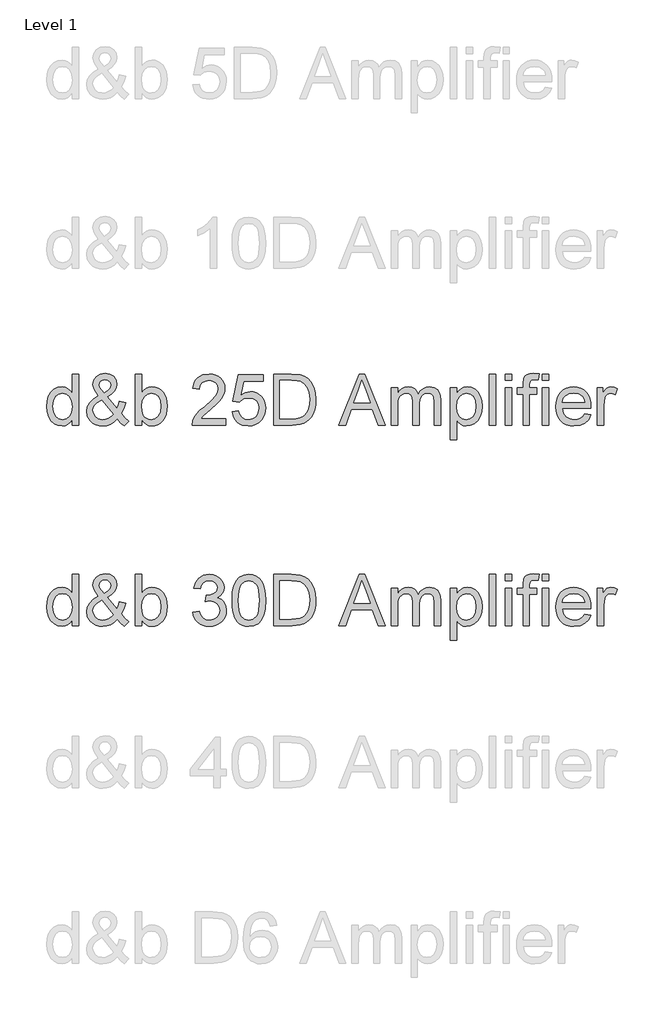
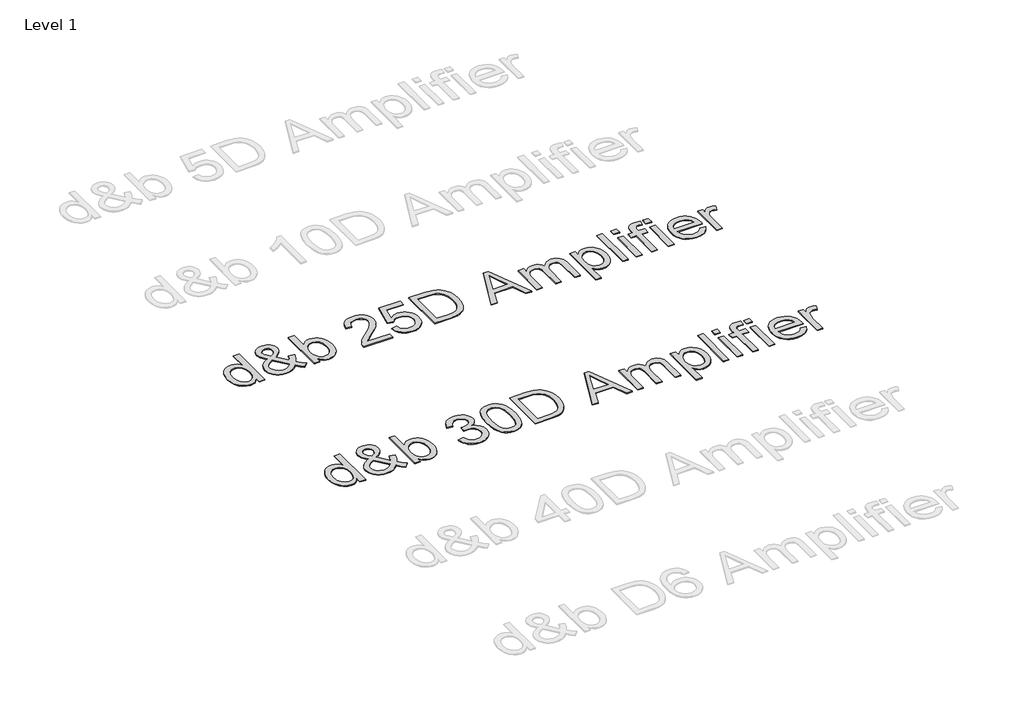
# One storey, part 9 of 14: 2 proxies.
"""IFC4 building model written with IfcOpenShell, lengths in millimetres."""

import ifcopenshell
import ifcopenshell.guid

model = None  # the IFC model being written
_history = None  # IfcOwnerHistory: only IFC2X3 demands one
_inside = {}  # id of a spatial element -> (the spatial element, [elements in it])
_under = {}  # id of a project, library or spatial element -> (it, [spatial elements below it])
_declared = {}  # id of a project -> (the project, [libraries it declares])
_typed = {}  # id of a type object -> (the type object, [elements of that type])
_made_of = {}  # id of a material, layer set ... -> (it, [elements and type objects made of it])


def new_model(schema):
    """Start an empty IFC model of exactly this schema.

    Asked for "IFC4X3", IfcOpenShell would pick the latest addendum, in which some entities
    have other attributes; the version numbers below select the first issue.
    IFC2X3 requires an IfcOwnerHistory on every rooted entity: one is made here for all.
    """
    global model, _history
    if schema == "IFC4X3":
        model = ifcopenshell.file(schema_version=(4, 3, 0, 0))
    else:
        model = ifcopenshell.file(schema=schema)
    _inside.clear()
    _under.clear()
    _declared.clear()
    _typed.clear()
    _made_of.clear()
    _history = None
    if model.schema == "IFC2X3":
        org = make("IfcOrganization", Name="unknown")
        user = make(
            "IfcPersonAndOrganization",
            ThePerson=make("IfcPerson", FamilyName="unknown"),
            TheOrganization=org,
        )
        app = make(
            "IfcApplication",
            ApplicationDeveloper=org,
            Version="unknown",
            ApplicationFullName="unknown",
            ApplicationIdentifier="unknown",
        )
        _history = make(
            "IfcOwnerHistory",
            OwningUser=user,
            OwningApplication=app,
            ChangeAction="ADDED",
            CreationDate=0,
        )
    return model


def make(cls, **values):
    """One entity of the class cls with the attributes given. An attribute that is None is left unset."""
    return model.create_entity(
        cls, **{name: value for name, value in values.items() if value is not None}
    )


def rooted(cls, **values):
    """An entity with a GlobalId (a new one), such as an element, a storey or a relation."""
    return make(cls, GlobalId=ifcopenshell.guid.new(), OwnerHistory=_history, **values)


def si_unit(unit_type, name, prefix=None):
    """IfcSIUnit, for example si_unit("LENGTHUNIT", "METRE", prefix="MILLI")."""
    return make("IfcSIUnit", UnitType=unit_type, Prefix=prefix, Name=name)


def assignment(units):
    """IfcUnitAssignment: the units of a project."""
    return None if units is None else make("IfcUnitAssignment", Units=units)


def point(xyz):
    """IfcCartesianPoint."""
    return None if xyz is None else make("IfcCartesianPoint", Coordinates=xyz)


def direction(xyz):
    """IfcDirection."""
    return None if xyz is None else make("IfcDirection", DirectionRatios=xyz)


def frame(location, z_axis=None, x_axis=None):
    """IfcAxis2Placement3D, a coordinate frame: its origin and axes. An axis left out is left unset."""
    return make(
        "IfcAxis2Placement3D",
        Location=point(location),
        Axis=direction(z_axis),
        RefDirection=direction(x_axis),
    )


def origin():
    """The frame at (0, 0, 0) with its axes left unset."""
    return frame((0.0, 0.0, 0.0))


def origin_with_axes():
    """The frame at (0, 0, 0) with the z axis (0, 0, 1) and the x axis (1, 0, 0) written out."""
    return frame((0.0, 0.0, 0.0), z_axis=(0.0, 0.0, 1.0), x_axis=(1.0, 0.0, 0.0))


def place(relative_to, where):
    """IfcLocalPlacement: puts the frame where relative to a parent placement (None: the world)."""
    return make(
        "IfcLocalPlacement", PlacementRelTo=relative_to, RelativePlacement=where
    )


def context(
    kind, dimensions, precision=None, world=None, true_north=None, identifier=None
):
    """IfcGeometricRepresentationContext, for example the 3D "Model" context."""
    return make(
        "IfcGeometricRepresentationContext",
        ContextIdentifier=identifier,
        ContextType=kind,
        CoordinateSpaceDimension=dimensions,
        Precision=precision,
        WorldCoordinateSystem=world,
        TrueNorth=true_north,
    )


def project(units=None, contexts=None):
    """IfcProject with its units and contexts."""
    return rooted(
        "IfcProject",
        Name="project",
        RepresentationContexts=contexts,
        UnitsInContext=assignment(units),
    )


def spatial(cls, under=None, at=None, **own):
    """A site, building, storey or space (cls), placed at a placement, below another one or the project."""
    s = rooted(cls, ObjectPlacement=at, **own)
    if under is not None:
        _under.setdefault(under.id(), (under, []))[1].append(s)
    return s


def polyline(points):
    """IfcPolyline through the points."""
    return make("IfcPolyline", Points=[point(p) for p in points])


def outline(outer, holes=None, kind="AREA"):
    """IfcArbitraryClosedProfileDef: a profile drawn as a closed curve; with holes, ...WithVoids."""
    if holes is None:
        return make("IfcArbitraryClosedProfileDef", ProfileType=kind, OuterCurve=outer)
    return make(
        "IfcArbitraryProfileDefWithVoids",
        ProfileType=kind,
        OuterCurve=outer,
        InnerCurves=holes,
    )


def extrude(swept, where, along, depth):
    """IfcExtrudedAreaSolid: the profile swept, set in the frame where, extruded along a direction by depth."""
    return make(
        "IfcExtrudedAreaSolid",
        SweptArea=swept,
        Position=where,
        ExtrudedDirection=direction(along),
        Depth=depth,
    )


def shape(context_of_items, identifier, shape_type, items):
    """IfcShapeRepresentation: the items that make up one representation, for example the "Body"."""
    return make(
        "IfcShapeRepresentation",
        ContextOfItems=context_of_items,
        RepresentationIdentifier=identifier,
        RepresentationType=shape_type,
        Items=items,
    )


def made_of(thing, what):
    """Note that an element or type object is made of a material, layer set ...; save() writes the relation."""
    if what is not None:
        _made_of.setdefault(what.id(), (what, []))[1].append(thing)
    return thing


def element(
    cls,
    number,
    at=None,
    inside=None,
    cuts=None,
    type_object=None,
    material=None,
    context=None,
    identifier="Body",
    shape_type=None,
    held_by="IfcProductDefinitionShape",
    body=None,
    shapes=None,
    **own,
):
    """One element of the class cls, such as IfcWall. Its Tag is "e" and its number.

    at: its placement. inside: the storey or other place that contains it. cuts: it is an
    opening in that element (IfcRelVoidsElement). A single representation is given by context,
    identifier, shape_type and body (its items); several are given by shapes. held_by: the class
    of the entity that holds the representations. save() writes the other relations.
    """
    e = rooted(cls, Tag="e%d" % number, ObjectPlacement=at, **own)
    if body is not None:
        shapes = [shape(context, identifier, shape_type, body)]
    if shapes is not None:
        e.Representation = make(held_by, Representations=shapes)
    if inside is not None:
        _inside.setdefault(inside.id(), (inside, []))[1].append(e)
    if cuts is not None:
        rooted(
            "IfcRelVoidsElement", RelatingBuildingElement=cuts, RelatedOpeningElement=e
        )
    if type_object is not None:
        _typed.setdefault(type_object.id(), (type_object, []))[1].append(e)
    return made_of(e, material)


def aggregate(whole, parts):
    """IfcRelAggregates: a whole, such as a stair, and the parts it consists of."""
    return rooted("IfcRelAggregates", RelatingObject=whole, RelatedObjects=parts)


def save(model, path):
    """Write the relations noted so far, then the file.

    IfcRelAggregates (storeys below a building ...), IfcRelContainedInSpatialStructure (elements
    in a storey), IfcRelDefinesByType, IfcRelAssociatesMaterial and IfcRelDeclares: one each for
    every whole, place, type object, material and project.
    """
    for whole, parts in _under.values():
        aggregate(whole, parts)
    for where, things in _inside.values():
        rooted(
            "IfcRelContainedInSpatialStructure",
            RelatedElements=things,
            RelatingStructure=where,
        )
    for kind, things in _typed.values():
        rooted("IfcRelDefinesByType", RelatedObjects=things, RelatingType=kind)
    for what, things in _made_of.values():
        rooted("IfcRelAssociatesMaterial", RelatedObjects=things, RelatingMaterial=what)
    for by, libraries in _declared.values():
        rooted("IfcRelDeclares", RelatingContext=by, RelatedDefinitions=libraries)
    model.write(path)


model = new_model("IFC4")

# Units and contexts
model_context = context("Model", 3, world=origin())
ifc_project = project(units=[si_unit("LENGTHUNIT", "METRE", prefix="MILLI")], contexts=[model_context])

# Site, building, storey
site = spatial("IfcSite", under=ifc_project)
building = spatial("IfcBuilding", under=site)
storey = spatial("IfcBuildingStorey", under=building, Name="Level 1", Elevation=0.0)

# Proxies
placement = place(None, origin())
element("IfcBuildingElementProxy", 1, Name="300mm Arial", ObjectType="300mm Arial", at=placement, inside=storey, context=model_context, shape_type="SweptSolid", body=[
    extrude(outline(polyline([(-19191.0990778, 13442.840485), (-19191.0990778, 13478.3778857), (-19202.3700624, 13460.7701337), (-19216.0230829, 13448.193168), (-19232.0581394, 13440.6469886), (-19250.4752318, 13438.1315955), (-19274.8290199, 13441.7736272), (-19297.1226688, 13452.6997225), (-19315.9950151, 13470.1465261), (-19330.0848956, 13493.3506829), (-19338.8588811, 13521.3740939), (-19341.783543, 13553.27866), (-19339.0888074, 13584.7877528), (-19331.0046005, 13613.2434252), (-19317.5401195, 13637.0269962), (-19298.7045614, 13654.519785), (-19275.9234688, 13665.2803334), (-19250.6223846, 13668.8671828), (-19232.1914966, 13666.3012059), (-19215.8943242, 13658.6032752), (-19202.0803553, 13646.8034602), (-19191.0990778, 13631.9318305), (-19191.0990778, 13744.2094155), (-19153.4279615, 13744.2094155), (-19153.4279615, 13442.840485), (-19191.0990778, 13442.840485)]), holes=[polyline([(-19304.1124267, 13553.4258128), (-19299.8633896, 13519.350743), (-19287.1162785, 13495.1165165), (-19268.5934201, 13480.631163), (-19247.017141, 13475.8027118), (-19225.4500591, 13480.4104338), (-19207.3962502, 13494.2335997), (-19195.1733709, 13517.5297271), (-19191.0990778, 13550.5563332), (-19195.2469473, 13586.663951), (-19207.6905558, 13611.6983208), (-19226.2042172, 13626.3216301), (-19248.5622454, 13631.1960665), (-19270.3592536, 13626.5147681), (-19288.2199245, 13612.470873), (-19300.1393011, 13588.3470111), (-19304.1124267, 13553.4258128)])]), origin_with_axes(), (0.0, 0.0, 1.0), 5.0),
    extrude(outline(polyline([(-18924.0903257, 13480.0701429), (-18943.2385835, 13461.7220284), (-18964.0423104, 13448.6162323), (-18986.5382944, 13440.7527547), (-19010.7633237, 13438.1315955), (-19032.744273, 13440.072173), (-19052.3339892, 13445.8939056), (-19069.5324725, 13455.5967932), (-19084.3397228, 13469.1808359), (-19100.8392303, 13495.9810392), (-19106.3390661, 13525.7610867), (-19101.9152851, 13552.1566199), (-19088.6439421, 13575.8666145), (-19066.5802195, 13596.8726764), (-19035.7792994, 13615.1564115), (-19062.0828621, 13653.2689862), (-19068.6679498, 13681.5223235), (-19063.4808136, 13706.9613634), (-19047.9194053, 13728.8319481), (-19024.5037163, 13743.8967158), (-18995.7537383, 13748.918305), (-18968.401712, 13744.117445), (-18946.5311274, 13729.7148648), (-18932.1837296, 13708.5800442), (-18927.4012636, 13683.5824626), (-18930.9421278, 13662.5947948), (-18941.5647204, 13643.1890196), (-18959.2690415, 13625.3651369), (-18984.0550909, 13609.1231468), (-18929.5349792, 13541.2121305), (-18920.2459588, 13560.6179058), (-18913.274595, 13582.9299488), (-18875.6034787, 13574.7629685), (-18887.1917616, 13539.8693612), (-18902.2381352, 13512.7380641), (-18880.827403, 13487.7588766), (-18856.7679206, 13467.1206967), (-18885.0212578, 13438.1315955), (-18904.243092, 13455.7163548), (-18924.0903257, 13480.0701429)]), holes=[polyline([(-18949.3270305, 13507.2198342), (-19016.5758593, 13591.1705055), (-19042.2632196, 13574.7813626), (-19057.9625837, 13559.6062303), (-19065.9916083, 13545.1116797), (-19068.6679498, 13530.7642819), (-19065.0075239, 13512.9955815), (-19054.0262464, 13494.5646935), (-19036.3311224, 13480.4932072), (-19012.5291573, 13475.8027118), (-18995.4870239, 13477.9916096), (-18977.9114616, 13484.5583033), (-18961.8442154, 13494.6014817), (-18949.3270305, 13507.2198342)]), polyline([(-19003.1113782, 13632.8883237), (-18983.4112974, 13645.3871145), (-18972.1357142, 13656.2488304), (-18966.8382135, 13666.8162407), (-18965.0723799, 13678.4321147), (-18967.3992336, 13691.5930931), (-18974.3797944, 13702.086927), (-18984.8552342, 13708.9571233), (-18997.6667247, 13711.2471887), (-19010.7541267, 13708.9755174), (-19021.4686898, 13702.1605034), (-19028.6147976, 13692.0713397), (-19030.9968335, 13679.9772191), (-19027.7594719, 13666.1816443), (-19017.9738108, 13650.8409651), (-19003.1113782, 13632.8883237)])]), origin_with_axes(), (0.0, 0.0, 1.0), 5.0),
    extrude(outline(polyline([(-18781.4256879, 13442.840485), (-18819.0968043, 13442.840485), (-18819.0968043, 13744.2094155), (-18781.4256879, 13744.2094155), (-18781.4256879, 13632.4468653), (-18769.0372618, 13648.3807542), (-18755.0485489, 13659.7621035), (-18739.4595493, 13666.590913), (-18722.2702631, 13668.8671828), (-18702.8644879, 13666.8162407), (-18684.5255704, 13660.6634143), (-18668.3019744, 13650.7949798), (-18655.2421636, 13637.5972133), (-18645.0058471, 13621.1988733), (-18637.252734, 13601.7287187), (-18632.3691005, 13579.9960899), (-18630.7412227, 13556.8103271), (-18632.4265821, 13530.056109), (-18637.4826603, 13506.5208584), (-18645.9094572, 13486.2045752), (-18657.706973, 13469.1072595), (-18671.8681305, 13455.5554065), (-18687.3858529, 13445.8755115), (-18704.2601402, 13440.0675745), (-18722.4909923, 13438.1315955), (-18740.2458971, 13440.6285945), (-18755.986648, 13448.1195916), (-18769.7132449, 13460.6045868), (-18781.4256879, 13478.0835801), (-18781.4256879, 13442.840485)]), holes=[polyline([(-18781.4256879, 13555.0444935), (-18778.850514, 13523.6273711), (-18771.1249921, 13502.3637918), (-18761.9969201, 13490.7433193), (-18751.388123, 13482.4429818), (-18739.298601, 13477.4627793), (-18725.7283539, 13475.8027118), (-18703.986528, 13480.6955423), (-18685.4084872, 13495.3740339), (-18672.6613761, 13519.7462161), (-18668.412339, 13553.7201184), (-18672.4866321, 13588.1906613), (-18684.7095114, 13612.286932), (-18702.708138, 13626.4687829), (-18724.1096731, 13631.1960665), (-18745.851499, 13626.303236), (-18764.4295398, 13611.6247444), (-18777.1766509, 13587.6940206), (-18781.4256879, 13555.0444935)])]), origin_with_axes(), (0.0, 0.0, 1.0), 5.0),
    extrude(outline(polyline([(-18480.0567575, 13522.8916072), (-18442.3856412, 13527.6004967), (-18433.9519465, 13503.9272903), (-18421.6003085, 13487.9428176), (-18404.7237219, 13478.8377382), (-18382.7151816, 13475.8027118), (-18356.8898655, 13479.9781724), (-18336.9506614, 13492.5045544), (-18324.2035502, 13511.1929597), (-18319.9545132, 13533.8544906), (-18324.166762, 13555.3663903), (-18336.8035086, 13572.8131939), (-18355.9333723, 13584.3738856), (-18379.6249728, 13588.2274495), (-18406.0389001, 13584.1071712), (-18401.8450453, 13621.7782875), (-18395.8117806, 13621.3368291), (-18373.2422202, 13624.0407617), (-18353.0638928, 13632.1525597), (-18338.8268595, 13645.8745581), (-18334.0811818, 13665.4090921), (-18337.5208785, 13681.6786733), (-18347.8399684, 13694.8764399), (-18363.5853178, 13703.6228343), (-18383.3037928, 13706.5382991), (-18403.0590559, 13703.5952432), (-18419.2090755, 13694.7660753), (-18430.9996934, 13680.0507955), (-18437.6767517, 13659.4494038), (-18475.347868, 13664.1582933), (-18464.2562258, 13697.9850428), (-18444.5193568, 13723.2401417), (-18417.5168183, 13738.967097), (-18384.6281679, 13744.2094155), (-18360.9457645, 13741.6250444), (-18339.1947415, 13733.8719314), (-18320.8558241, 13721.639855), (-18307.4097372, 13705.6185942), (-18299.1599834, 13687.1601151), (-18296.4100655, 13667.6163841), (-18299.0220277, 13649.4062253), (-18306.8579142, 13632.8883237), (-18319.8073604, 13618.8168374), (-18337.7600018, 13607.9459244), (-18314.1787659, 13598.4177808), (-18296.7043711, 13582.1941848), (-18285.8886404, 13560.1580533), (-18282.2833969, 13533.192303), (-18284.0860187, 13514.0808334), (-18289.493884, 13496.4776799), (-18298.5069929, 13480.3828426), (-18311.1253453, 13465.7963215), (-18326.4982142, 13453.6930039), (-18343.7748724, 13445.047777), (-18362.9553199, 13439.8606408), (-18384.0395568, 13438.1315955), (-18403.0958441, 13439.607722), (-18420.4598743, 13444.0361015), (-18436.1316473, 13451.416734), (-18450.1111631, 13461.7496196), (-18461.8328032, 13474.4277528), (-18470.7309489, 13488.8441285), (-18476.8056004, 13504.9987466), (-18480.0567575, 13522.8916072)])), origin_with_axes(), (0.0, 0.0, 1.0), 5.0),
    extrude(outline(polyline([(-18249.3211701, 13591.0969291), (-18246.5528581, 13639.3354557), (-18238.2479221, 13677.8067153), (-18224.4891354, 13707.0993192), (-18205.3592717, 13727.8018785), (-18180.7203751, 13740.1075312), (-18150.4344898, 13744.2094155), (-18127.2211359, 13741.7813943), (-18106.4358032, 13734.4973308), (-18089.0533789, 13722.6423335), (-18076.0487504, 13706.5015109), (-18066.2263011, 13686.2128189), (-18058.3904146, 13661.9142131), (-18053.2584608, 13631.0581108), (-18051.5478095, 13591.0969291), (-18054.2885304, 13543.1343139), (-18062.510693, 13504.7550248), (-18076.1867061, 13475.4348298), (-18095.2889787, 13454.6494971), (-18119.9830577, 13442.2610709), (-18150.4344898, 13438.1315955), (-18171.1830343, 13439.9250202), (-18189.5771341, 13445.3052944), (-18205.6167891, 13454.272418), (-18219.3019993, 13466.8263911), (-18232.4353865, 13489.5201117), (-18241.8163774, 13517.7964415), (-18247.4449719, 13551.6553807), (-18249.3211701, 13591.0969291)]), holes=[polyline([(-18211.6500538, 13591.1705055), (-18207.2354699, 13531.9139131), (-18201.7172399, 13511.6459144), (-18193.991718, 13497.6181141), (-18174.2732431, 13481.2565624), (-18150.4344898, 13475.8027118), (-18126.5957365, 13481.2749565), (-18106.8772616, 13497.6916905), (-18099.1517397, 13511.7424834), (-18093.6335098, 13532.0058836), (-18089.2189258, 13591.1705055), (-18093.486357, 13649.0935256), (-18098.8206459, 13669.2948457), (-18106.2886504, 13683.656039), (-18125.9703371, 13700.8177341), (-18150.8759482, 13706.5382991), (-18174.4571841, 13701.4983158), (-18193.4031069, 13686.3783658), (-18201.3861462, 13670.743381), (-18207.0883171, 13649.6637427), (-18211.6500538, 13591.1705055)])]), origin_with_axes(), (0.0, 0.0, 1.0), 5.0),
    extrude(outline(polyline([(-18004.4589141, 13442.840485), (-18004.4589141, 13744.2094155), (-17900.4954623, 13744.2094155), (-17846.7111146, 13739.8684079), (-17822.6884203, 13731.4990925), (-17802.4181224, 13718.310523), (-17781.5776074, 13695.3546865), (-17766.7335688, 13666.8070437), (-17757.8492187, 13633.2194175), (-17754.8877686, 13595.143631), (-17756.8927255, 13562.7976066), (-17762.9075961, 13534.3327372), (-17772.0678578, 13510.0985108), (-17783.5089878, 13490.4444152), (-17796.6791633, 13474.928992), (-17811.0265611, 13463.1107829), (-17827.4984774, 13454.3459944), (-17847.0422084, 13447.9908329), (-17895.4922672, 13442.840485), (-18004.4589141, 13442.840485)]), holes=[polyline([(-17966.7877978, 13480.5116013), (-17900.1275803, 13480.5116013), (-17872.5548248, 13481.8727647), (-17851.6407333, 13485.9562548), (-17835.8585957, 13492.5229485), (-17823.6817017, 13501.3337222), (-17810.5942997, 13517.6400917), (-17800.7626534, 13538.7473211), (-17794.609827, 13564.7473812), (-17792.5588849, 13595.7322422), (-17796.5779957, 13636.7878729), (-17808.6353281, 13667.1013493), (-17826.4500137, 13687.9234702), (-17847.7411842, 13700.5050344), (-17869.4094337, 13705.029983), (-17901.1576499, 13706.5382991), (-17966.7877978, 13706.5382991), (-17966.7877978, 13480.5116013)])]), origin_with_axes(), (0.0, 0.0, 1.0), 5.0),
    extrude(outline(polyline([(-17620.3901112, 13442.840485), (-17500.0926987, 13744.2094155), (-17468.0133888, 13744.2094155), (-17347.7895527, 13442.840485), (-17387.5943846, 13442.840485), (-17422.0281394, 13537.0182758), (-17546.2251009, 13537.0182758), (-17580.6588557, 13442.840485), (-17620.3901112, 13442.840485)]), holes=[polyline([(-17532.3927379, 13574.6893921), (-17435.786926, 13574.6893921), (-17463.0101936, 13648.7808259), (-17484.1266202, 13706.5382991), (-17502.8886019, 13655.255549), (-17532.3927379, 13574.6893921)])]), origin_with_axes(), (0.0, 0.0, 1.0), 5.0),
    extrude(outline(polyline([(-17312.252152, 13442.840485), (-17312.252152, 13664.1582933), (-17274.5810357, 13664.1582933), (-17274.5810357, 13627.7379758), (-17263.2502702, 13644.4674095), (-17248.6821432, 13657.5732056), (-17231.3732954, 13666.0436885), (-17211.8203673, 13668.8671828), (-17190.8694877, 13665.9885062), (-17174.0756746, 13657.3524764), (-17161.5308986, 13643.5293104), (-17153.3271301, 13625.0892254), (-17139.5959346, 13644.2420818), (-17123.9333587, 13657.9226935), (-17106.3394023, 13666.1310605), (-17086.8140654, 13668.8671828), (-17058.4963488, 13664.3146432), (-17037.5546662, 13650.6570241), (-17024.614417, 13627.5264436), (-17020.3010006, 13594.5550198), (-17020.3010006, 13442.840485), (-17057.9721169, 13442.840485), (-17057.9721169, 13578.368212), (-17061.4669959, 13609.8221226), (-17066.3782205, 13618.4949407), (-17074.1221365, 13625.3099546), (-17084.0825415, 13629.7245386), (-17095.6432332, 13631.1960665), (-17116.0514869, 13627.4252761), (-17132.6889502, 13616.1129047), (-17143.7530012, 13596.4864003), (-17147.4410182, 13567.7732106), (-17147.4410182, 13442.840485), (-17185.1121345, 13442.840485), (-17185.1121345, 13582.5620668), (-17187.2918353, 13603.8624343), (-17193.8309378, 13619.0559607), (-17205.3364472, 13628.1610401), (-17222.4153688, 13631.1960665), (-17236.9283135, 13629.1727156), (-17250.300824, 13623.1026626), (-17261.3372839, 13613.1330606), (-17268.8420766, 13599.4110622), (-17273.1462959, 13580.3731689), (-17274.5810357, 13554.4558823), (-17274.5810357, 13442.840485), (-17312.252152, 13442.840485)])), origin_with_axes(), (0.0, 0.0, 1.0), 5.0),
    extrude(outline(polyline([(-16963.7943262, 13358.0804733), (-16963.7943262, 13664.1582933), (-16926.1232099, 13664.1582933), (-16926.1232099, 13627.222941), (-16913.8359512, 13645.4422968), (-16900.0771646, 13658.4561224), (-16884.0375096, 13666.2644177), (-16864.9076459, 13668.8671828), (-16839.4318177, 13665.2251511), (-16817.1565629, 13654.2990558), (-16799.0199805, 13636.7510847), (-16785.9601697, 13613.2434252), (-16778.0691009, 13585.4867286), (-16775.4387446, 13555.1916463), (-16778.4093918, 13522.9743806), (-16787.3213331, 13494.1600233), (-16801.8894601, 13470.2109054), (-16821.8286642, 13452.5893579), (-16845.0512152, 13441.7460361), (-16869.4693826, 13438.1315955), (-16886.7874275, 13440.5504196), (-16902.2476684, 13447.8068919), (-16915.4822232, 13458.7605783), (-16926.1232099, 13472.2710446), (-16926.1232099, 13358.0804733), (-16963.7943262, 13358.0804733)]), holes=[polyline([(-16926.1232099, 13551.7335556), (-16922.0489168, 13517.9619884), (-16909.8260375, 13494.3439643), (-16891.7906227, 13480.4380249), (-16870.278723, 13475.8027118), (-16848.4173354, 13480.6035718), (-16829.9220681, 13495.0061519), (-16817.3129127, 13519.4886987), (-16813.109861, 13554.5294587), (-16817.2117452, 13588.1170849), (-16829.5173979, 13612.0662028), (-16847.5252216, 13626.4136006), (-16868.7336186, 13631.1960665), (-16890.0247891, 13626.110098), (-16908.7223915, 13610.8521922), (-16921.7730053, 13585.9005959), (-16926.1232099, 13551.7335556)])]), origin_with_axes(), (0.0, 0.0, 1.0), 5.0),
    extrude(outline(polyline([(-16733.0587388, 13442.840485), (-16733.0587388, 13744.2094155), (-16695.3876225, 13744.2094155), (-16695.3876225, 13442.840485), (-16733.0587388, 13442.840485)])), origin_with_axes(), (0.0, 0.0, 1.0), 5.0),
    extrude(outline(polyline([(-16638.880948, 13442.840485), (-16638.880948, 13664.1582933), (-16601.2098317, 13664.1582933), (-16601.2098317, 13442.840485), (-16638.880948, 13442.840485)])), origin_with_axes(), (0.0, 0.0, 1.0), 5.0),
    extrude(outline(polyline([(-16638.880948, 13706.5382991), (-16638.880948, 13744.2094155), (-16601.2098317, 13744.2094155), (-16601.2098317, 13706.5382991), (-16638.880948, 13706.5382991)])), origin_with_axes(), (0.0, 0.0, 1.0), 5.0),
    extrude(outline(polyline([(-16535.2853782, 13442.840485), (-16535.2853782, 13626.487177), (-16568.247605, 13626.487177), (-16568.247605, 13664.1582933), (-16535.2853782, 13664.1582933), (-16535.2853782, 13686.4519422), (-16531.3122526, 13717.8690646), (-16523.7338835, 13730.3954465), (-16512.0352361, 13740.3098663), (-16495.6644873, 13746.7661953), (-16474.0698142, 13748.918305), (-16439.7096358, 13744.7980266), (-16445.2278658, 13709.4813551), (-16466.9329035, 13711.2471887), (-16481.2527102, 13709.6836902), (-16490.6612922, 13704.9931948), (-16495.8760195, 13696.0352682), (-16497.6142619, 13681.6694763), (-16497.6142619, 13664.1582933), (-16455.234256, 13664.1582933), (-16455.234256, 13626.487177), (-16497.6142619, 13626.487177), (-16497.6142619, 13442.840485), (-16535.2853782, 13442.840485)])), origin_with_axes(), (0.0, 0.0, 1.0), 5.0),
    extrude(outline(polyline([(-16422.2720293, 13442.840485), (-16422.2720293, 13664.1582933), (-16384.600913, 13664.1582933), (-16384.600913, 13442.840485), (-16422.2720293, 13442.840485)])), origin_with_axes(), (0.0, 0.0, 1.0), 5.0),
    extrude(outline(polyline([(-16422.2720293, 13706.5382991), (-16422.2720293, 13744.2094155), (-16384.600913, 13744.2094155), (-16384.600913, 13706.5382991), (-16422.2720293, 13706.5382991)])), origin_with_axes(), (0.0, 0.0, 1.0), 5.0),
    extrude(outline(polyline([(-16173.1423421, 13508.7649385), (-16136.2069898, 13504.056049), (-16149.515121, 13476.2257761), (-16170.7511092, 13455.4220492), (-16199.4367077, 13442.4542089), (-16235.0936701, 13438.1315955), (-16258.4679724, 13439.9962973), (-16279.2946919, 13445.5904029), (-16297.5738285, 13454.9139122), (-16313.3053823, 13467.9668253), (-16325.9559244, 13484.3858586), (-16334.9920259, 13503.8077287), (-16340.4136868, 13526.2324355), (-16342.2209071, 13551.6599792), (-16340.3952927, 13577.9497463), (-16334.9184495, 13601.1217134), (-16325.7903775, 13621.1758807), (-16313.0110767, 13638.112248), (-16297.3209096, 13651.567532), (-16279.4602387, 13661.1784491), (-16259.4290641, 13666.9449994), (-16237.2273857, 13668.8671828), (-16215.7407779, 13666.9495979), (-16196.3097108, 13661.1968432), (-16178.9341843, 13651.6089187), (-16163.6141985, 13638.1858244), (-16151.1085099, 13621.2862453), (-16142.1758752, 13601.2688662), (-16136.8162944, 13578.1336873), (-16135.0297674, 13551.8807084), (-16135.2504966, 13541.7271653), (-16304.5497908, 13541.7271653), (-16298.0290825, 13513.5290104), (-16282.8815413, 13492.79886), (-16261.0201537, 13480.0517488), (-16234.3579061, 13475.8027118), (-16214.3083374, 13477.7708804), (-16197.4225538, 13483.6753865), (-16183.7005554, 13493.8841118), (-16173.1423421, 13508.7649385)]), holes=[polyline([(-16304.5497908, 13579.3982816), (-16172.7008837, 13579.3982816), (-16177.7960494, 13599.3006976), (-16187.7840455, 13613.5377308), (-16209.7466007, 13626.7814826), (-16237.3745385, 13631.1960665), (-16262.7675932, 13627.6735964), (-16283.7644581, 13617.1061861), (-16298.3601763, 13600.6342698), (-16304.5497908, 13579.3982816)])]), origin_with_axes(), (0.0, 0.0, 1.0), 5.0),
    extrude(outline(polyline([(-16097.3586511, 13442.840485), (-16097.3586511, 13664.1582933), (-16064.3964244, 13664.1582933), (-16064.3964244, 13631.4167957), (-16052.2195303, 13650.3995067), (-16040.9991295, 13661.5831193), (-16029.7419404, 13667.046167), (-16017.4546818, 13668.8671828), (-15998.6927, 13665.9609151), (-15979.6364127, 13657.2421118), (-15992.2179769, 13623.4705446), (-16005.4617287, 13629.2646861), (-16018.7054806, 13631.1960665), (-16029.9534726, 13629.3382625), (-16040.0058481, 13623.7648502), (-16048.1268431, 13614.8988941), (-16053.5806937, 13603.1634585), (-16058.1608245, 13582.1206084), (-16059.6875348, 13559.1647719), (-16059.6875348, 13442.840485), (-16097.3586511, 13442.840485)])), origin_with_axes(), (0.0, 0.0, 1.0), 5.0),
])
element("IfcBuildingElementProxy", 2, Name="300mm Arial", ObjectType="300mm Arial", at=placement, inside=storey, context=model_context, shape_type="SweptSolid", body=[
    extrude(outline(polyline([(-19191.0990778, 14623.4323229), (-19191.0990778, 14658.9697236), (-19202.3700624, 14641.3619716), (-19216.0230829, 14628.7850059), (-19232.0581394, 14621.2388265), (-19250.4752318, 14618.7234333), (-19274.8290199, 14622.3654651), (-19297.1226688, 14633.2915604), (-19315.9950151, 14650.738364), (-19330.0848956, 14673.9425208), (-19338.8588811, 14701.9659318), (-19341.783543, 14733.8704978), (-19339.0888074, 14765.3795907), (-19331.0046005, 14793.8352631), (-19317.5401195, 14817.618834), (-19298.7045614, 14835.1116229), (-19275.9234688, 14845.8721713), (-19250.6223846, 14849.4590207), (-19232.1914966, 14846.8930438), (-19215.8943242, 14839.1951131), (-19202.0803553, 14827.3952981), (-19191.0990778, 14812.5236684), (-19191.0990778, 14924.8012533), (-19153.4279615, 14924.8012533), (-19153.4279615, 14623.4323229), (-19191.0990778, 14623.4323229)]), holes=[polyline([(-19304.1124267, 14734.0176506), (-19299.8633896, 14699.9425808), (-19287.1162785, 14675.7083544), (-19268.5934201, 14661.2230008), (-19247.017141, 14656.3945497), (-19225.4500591, 14661.0022716), (-19207.3962502, 14674.8254376), (-19195.1733709, 14698.121565), (-19191.0990778, 14731.1481711), (-19195.2469473, 14767.2557889), (-19207.6905558, 14792.2901587), (-19226.2042172, 14806.913468), (-19248.5622454, 14811.7879044), (-19270.3592536, 14807.106606), (-19288.2199245, 14793.0627109), (-19300.1393011, 14768.938849), (-19304.1124267, 14734.0176506)])]), origin_with_axes(), (0.0, 0.0, 1.0), 5.0),
    extrude(outline(polyline([(-18924.0903257, 14660.6619808), (-18943.2385835, 14642.3138663), (-18964.0423104, 14629.2080702), (-18986.5382944, 14621.3445926), (-19010.7633237, 14618.7234333), (-19032.744273, 14620.6640109), (-19052.3339892, 14626.4857434), (-19069.5324725, 14636.1886311), (-19084.3397228, 14649.7726737), (-19100.8392303, 14676.5728771), (-19106.3390661, 14706.3529246), (-19101.9152851, 14732.7484578), (-19088.6439421, 14756.4584523), (-19066.5802195, 14777.4645143), (-19035.7792994, 14795.7482494), (-19062.0828621, 14833.8608241), (-19068.6679498, 14862.1141614), (-19063.4808136, 14887.5532013), (-19047.9194053, 14909.4237859), (-19024.5037163, 14924.4885536), (-18995.7537383, 14929.5101429), (-18968.401712, 14924.7092828), (-18946.5311274, 14910.3067027), (-18932.1837296, 14889.1718821), (-18927.4012636, 14864.1743005), (-18930.9421278, 14843.1866327), (-18941.5647204, 14823.7808575), (-18959.2690415, 14805.9569748), (-18984.0550909, 14789.7149847), (-18929.5349792, 14721.8039684), (-18920.2459588, 14741.2097436), (-18913.274595, 14763.5217866), (-18875.6034787, 14755.3548064), (-18887.1917616, 14720.4611991), (-18902.2381352, 14693.329902), (-18880.827403, 14668.3507145), (-18856.7679206, 14647.7125346), (-18885.0212578, 14618.7234333), (-18904.243092, 14636.3081927), (-18924.0903257, 14660.6619808)]), holes=[polyline([(-18949.3270305, 14687.811672), (-19016.5758593, 14771.7623433), (-19042.2632196, 14755.3732005), (-19057.9625837, 14740.1980682), (-19065.9916083, 14725.7035175), (-19068.6679498, 14711.3561197), (-19065.0075239, 14693.5874194), (-19054.0262464, 14675.1565314), (-19036.3311224, 14661.0850451), (-19012.5291573, 14656.3945497), (-18995.4870239, 14658.5834475), (-18977.9114616, 14665.1501411), (-18961.8442154, 14675.1933196), (-18949.3270305, 14687.811672)]), polyline([(-19003.1113782, 14813.4801616), (-18983.4112974, 14825.9789524), (-18972.1357142, 14836.8406683), (-18966.8382135, 14847.4080786), (-18965.0723799, 14859.0239526), (-18967.3992336, 14872.184931), (-18974.3797944, 14882.6787649), (-18984.8552342, 14889.5489611), (-18997.6667247, 14891.8390266), (-19010.7541267, 14889.5673552), (-19021.4686898, 14882.7523413), (-19028.6147976, 14872.6631776), (-19030.9968335, 14860.569057), (-19027.7594719, 14846.7734822), (-19017.9738108, 14831.432803), (-19003.1113782, 14813.4801616)])]), origin_with_axes(), (0.0, 0.0, 1.0), 5.0),
    extrude(outline(polyline([(-18781.4256879, 14623.4323229), (-18819.0968043, 14623.4323229), (-18819.0968043, 14924.8012533), (-18781.4256879, 14924.8012533), (-18781.4256879, 14813.0387032), (-18769.0372618, 14828.9725921), (-18755.0485489, 14840.3539413), (-18739.4595493, 14847.1827509), (-18722.2702631, 14849.4590207), (-18702.8644879, 14847.4080786), (-18684.5255704, 14841.2552522), (-18668.3019744, 14831.3868177), (-18655.2421636, 14818.1890511), (-18645.0058471, 14801.7907112), (-18637.252734, 14782.3205566), (-18632.3691005, 14760.5879277), (-18630.7412227, 14737.402165), (-18632.4265821, 14710.6479469), (-18637.4826603, 14687.1126963), (-18645.9094572, 14666.7964131), (-18657.706973, 14649.6990973), (-18671.8681305, 14636.1472443), (-18687.3858529, 14626.4673493), (-18704.2601402, 14620.6594123), (-18722.4909923, 14618.7234333), (-18740.2458971, 14621.2204324), (-18755.986648, 14628.7114295), (-18769.7132449, 14641.1964247), (-18781.4256879, 14658.675418), (-18781.4256879, 14623.4323229)]), holes=[polyline([(-18781.4256879, 14735.6363314), (-18778.850514, 14704.219209), (-18771.1249921, 14682.9556297), (-18761.9969201, 14671.3351572), (-18751.388123, 14663.0348197), (-18739.298601, 14658.0546172), (-18725.7283539, 14656.3945497), (-18703.986528, 14661.2873802), (-18685.4084872, 14675.9658718), (-18672.6613761, 14700.338054), (-18668.412339, 14734.3119562), (-18672.4866321, 14768.7824992), (-18684.7095114, 14792.8787699), (-18702.708138, 14807.0606208), (-18724.1096731, 14811.7879044), (-18745.851499, 14806.8950739), (-18764.4295398, 14792.2165823), (-18777.1766509, 14768.2858585), (-18781.4256879, 14735.6363314)])]), origin_with_axes(), (0.0, 0.0, 1.0), 5.0),
    extrude(outline(polyline([(-18286.9922864, 14661.1034392), (-18286.9922864, 14623.4323229), (-18484.765647, 14623.4323229), (-18480.7189451, 14649.4047917), (-18471.4207277, 14669.7026808), (-18457.7998968, 14689.3935646), (-18438.109013, 14710.0041534), (-18410.6006368, 14733.0611574), (-18369.9588734, 14769.1687753), (-18345.5958883, 14795.8218258), (-18333.4281913, 14817.4532871), (-18329.3722923, 14838.4961373), (-18333.2074621, 14857.3592866), (-18344.7129715, 14873.0402566), (-18362.3988984, 14883.6076669), (-18384.7753207, 14887.130137), (-18408.2737832, 14883.6904404), (-18426.5299272, 14873.3713504), (-18438.3113481, 14856.9822075), (-18442.3856412, 14835.3323521), (-18480.0567575, 14840.0412416), (-18470.924087, 14876.4799533), (-18462.3777284, 14891.0158906), (-18451.1780209, 14903.0962156), (-18437.5824819, 14912.5921696), (-18421.8486288, 14919.3749939), (-18383.9659804, 14924.8012533), (-18363.7761566, 14923.2929372), (-18345.8074204, 14918.7679886), (-18330.0597718, 14911.2264077), (-18316.5332106, 14900.6681945), (-18305.6691955, 14887.8750981), (-18297.9091846, 14873.6288678), (-18293.2531781, 14857.9295037), (-18291.701176, 14840.7770056), (-18293.375039, 14822.7599849), (-18298.3966283, 14805.0556639), (-18307.3085696, 14787.0478402), (-18320.653489, 14768.1203116), (-18341.9262654, 14745.52316), (-18374.6217777, 14716.5064677), (-18417.9582767, 14680.2700911), (-18434.9544249, 14661.1034392), (-18286.9922864, 14661.1034392)])), origin_with_axes(), (0.0, 0.0, 1.0), 5.0),
    extrude(outline(polyline([(-18249.3211701, 14703.483445), (-18211.6500538, 14708.1923346), (-18204.7338723, 14685.5767889), (-18192.6673429, 14669.3807841), (-18175.5056478, 14659.6411083), (-18153.3039694, 14656.3945497), (-18126.3014309, 14660.9103011), (-18106.0679212, 14674.4575556), (-18093.4311747, 14695.4728146), (-18089.2189258, 14722.3925796), (-18093.1644602, 14747.7396491), (-18105.0010634, 14767.1270302), (-18124.8207059, 14779.4326829), (-18152.7153582, 14783.5345672), (-18170.9898963, 14781.8974923), (-18185.7879496, 14776.9862677), (-18206.9411643, 14759.9901195), (-18244.6122806, 14764.699009), (-18211.6500538, 14920.0923638), (-18065.6744781, 14920.0923638), (-18065.6744781, 14882.4212475), (-18181.1894246, 14882.4212475), (-18197.3762324, 14799.4270694), (-18170.4656645, 14815.76103), (-18142.2675095, 14821.2056835), (-18123.919395, 14819.5180248), (-18107.0612026, 14814.4550489), (-18091.6929322, 14806.0167556), (-18077.814584, 14794.203145), (-18066.3228701, 14779.7361856), (-18058.1145031, 14763.3378457), (-18053.1894829, 14745.0081252), (-18051.5478095, 14724.7470244), (-18057.4523155, 14687.0759081), (-18064.8329481, 14670.282095), (-18075.1658336, 14654.8494453), (-18090.8192125, 14639.0443151), (-18109.0845536, 14627.7549363), (-18129.9618568, 14620.9813091), (-18153.4511222, 14618.7234333), (-18190.4508538, 14624.5267718), (-18206.1295246, 14631.7809449), (-18219.9273987, 14641.9367872), (-18231.4076162, 14654.4884611), (-18240.1333173, 14668.9301286), (-18249.3211701, 14703.483445)])), origin_with_axes(), (0.0, 0.0, 1.0), 5.0),
    extrude(outline(polyline([(-18004.4589141, 14623.4323229), (-18004.4589141, 14924.8012533), (-17900.4954623, 14924.8012533), (-17846.7111146, 14920.4602458), (-17822.6884203, 14912.0909304), (-17802.4181224, 14898.9023609), (-17781.5776074, 14875.9465244), (-17766.7335688, 14847.3988815), (-17757.8492187, 14813.8112554), (-17754.8877686, 14775.7354689), (-17756.8927255, 14743.3894445), (-17762.9075961, 14714.9245751), (-17772.0678578, 14690.6903487), (-17783.5089878, 14671.0362531), (-17796.6791633, 14655.5208299), (-17811.0265611, 14643.7026208), (-17827.4984774, 14634.9378323), (-17847.0422084, 14628.5826708), (-17895.4922672, 14623.4323229), (-18004.4589141, 14623.4323229)]), holes=[polyline([(-17966.7877978, 14661.1034392), (-17900.1275803, 14661.1034392), (-17872.5548248, 14662.4646026), (-17851.6407333, 14666.5480927), (-17835.8585957, 14673.1147863), (-17823.6817017, 14681.9255601), (-17810.5942997, 14698.2319296), (-17800.7626534, 14719.339159), (-17794.609827, 14745.339219), (-17792.5588849, 14776.3240801), (-17796.5779957, 14817.3797107), (-17808.6353281, 14847.6931871), (-17826.4500137, 14868.5153081), (-17847.7411842, 14881.0968723), (-17869.4094337, 14885.6218208), (-17901.1576499, 14887.130137), (-17966.7877978, 14887.130137), (-17966.7877978, 14661.1034392)])]), origin_with_axes(), (0.0, 0.0, 1.0), 5.0),
    extrude(outline(polyline([(-17620.3901112, 14623.4323229), (-17500.0926987, 14924.8012533), (-17468.0133888, 14924.8012533), (-17347.7895527, 14623.4323229), (-17387.5943846, 14623.4323229), (-17422.0281394, 14717.6101137), (-17546.2251009, 14717.6101137), (-17580.6588557, 14623.4323229), (-17620.3901112, 14623.4323229)]), holes=[polyline([(-17532.3927379, 14755.28123), (-17435.786926, 14755.28123), (-17463.0101936, 14829.3726638), (-17484.1266202, 14887.130137), (-17502.8886019, 14835.8473869), (-17532.3927379, 14755.28123)])]), origin_with_axes(), (0.0, 0.0, 1.0), 5.0),
    extrude(outline(polyline([(-17312.252152, 14623.4323229), (-17312.252152, 14844.7501312), (-17274.5810357, 14844.7501312), (-17274.5810357, 14808.3298137), (-17263.2502702, 14825.0592474), (-17248.6821432, 14838.1650435), (-17231.3732954, 14846.6355264), (-17211.8203673, 14849.4590207), (-17190.8694877, 14846.5803441), (-17174.0756746, 14837.9443143), (-17161.5308986, 14824.1211483), (-17153.3271301, 14805.6810633), (-17139.5959346, 14824.8339197), (-17123.9333587, 14838.5145314), (-17106.3394023, 14846.7228984), (-17086.8140654, 14849.4590207), (-17058.4963488, 14844.906481), (-17037.5546662, 14831.248862), (-17024.614417, 14808.1182815), (-17020.3010006, 14775.1468577), (-17020.3010006, 14623.4323229), (-17057.9721169, 14623.4323229), (-17057.9721169, 14758.9600499), (-17061.4669959, 14790.4139605), (-17066.3782205, 14799.0867785), (-17074.1221365, 14805.9017925), (-17084.0825415, 14810.3163764), (-17095.6432332, 14811.7879044), (-17116.0514869, 14808.017114), (-17132.6889502, 14796.7047426), (-17143.7530012, 14777.0782382), (-17147.4410182, 14748.3650484), (-17147.4410182, 14623.4323229), (-17185.1121345, 14623.4323229), (-17185.1121345, 14763.1539047), (-17187.2918353, 14784.4542722), (-17193.8309378, 14799.6477986), (-17205.3364472, 14808.752878), (-17222.4153688, 14811.7879044), (-17236.9283135, 14809.7645534), (-17250.300824, 14803.6945005), (-17261.3372839, 14793.7248985), (-17268.8420766, 14780.0029), (-17273.1462959, 14760.9650068), (-17274.5810357, 14735.0477202), (-17274.5810357, 14623.4323229), (-17312.252152, 14623.4323229)])), origin_with_axes(), (0.0, 0.0, 1.0), 5.0),
    extrude(outline(polyline([(-16963.7943262, 14538.6723112), (-16963.7943262, 14844.7501312), (-16926.1232099, 14844.7501312), (-16926.1232099, 14807.8147789), (-16913.8359512, 14826.0341347), (-16900.0771646, 14839.0479603), (-16884.0375096, 14846.8562556), (-16864.9076459, 14849.4590207), (-16839.4318177, 14845.816989), (-16817.1565629, 14834.8908937), (-16799.0199805, 14817.3429225), (-16785.9601697, 14793.8352631), (-16778.0691009, 14766.0785665), (-16775.4387446, 14735.7834842), (-16778.4093918, 14703.5662185), (-16787.3213331, 14674.7518612), (-16801.8894601, 14650.8027433), (-16821.8286642, 14633.1811958), (-16845.0512152, 14622.3378739), (-16869.4693826, 14618.7234333), (-16886.7874275, 14621.1422575), (-16902.2476684, 14628.3987298), (-16915.4822232, 14639.3524162), (-16926.1232099, 14652.8628825), (-16926.1232099, 14538.6723112), (-16963.7943262, 14538.6723112)]), holes=[polyline([(-16926.1232099, 14732.3253935), (-16922.0489168, 14698.5538263), (-16909.8260375, 14674.9358022), (-16891.7906227, 14661.0298628), (-16870.278723, 14656.3945497), (-16848.4173354, 14661.1954097), (-16829.9220681, 14675.5979898), (-16817.3129127, 14700.0805366), (-16813.109861, 14735.1212966), (-16817.2117452, 14768.7089228), (-16829.5173979, 14792.6580407), (-16847.5252216, 14807.0054385), (-16868.7336186, 14811.7879044), (-16890.0247891, 14806.7019358), (-16908.7223915, 14791.4440301), (-16921.7730053, 14766.4924338), (-16926.1232099, 14732.3253935)])]), origin_with_axes(), (0.0, 0.0, 1.0), 5.0),
    extrude(outline(polyline([(-16733.0587388, 14623.4323229), (-16733.0587388, 14924.8012533), (-16695.3876225, 14924.8012533), (-16695.3876225, 14623.4323229), (-16733.0587388, 14623.4323229)])), origin_with_axes(), (0.0, 0.0, 1.0), 5.0),
    extrude(outline(polyline([(-16638.880948, 14887.130137), (-16638.880948, 14924.8012533), (-16601.2098317, 14924.8012533), (-16601.2098317, 14887.130137), (-16638.880948, 14887.130137)])), origin_with_axes(), (0.0, 0.0, 1.0), 5.0),
    extrude(outline(polyline([(-16638.880948, 14623.4323229), (-16638.880948, 14844.7501312), (-16601.2098317, 14844.7501312), (-16601.2098317, 14623.4323229), (-16638.880948, 14623.4323229)])), origin_with_axes(), (0.0, 0.0, 1.0), 5.0),
    extrude(outline(polyline([(-16535.2853782, 14623.4323229), (-16535.2853782, 14807.0790149), (-16568.247605, 14807.0790149), (-16568.247605, 14844.7501312), (-16535.2853782, 14844.7501312), (-16535.2853782, 14867.0437801), (-16531.3122526, 14898.4609025), (-16523.7338835, 14910.9872844), (-16512.0352361, 14920.9017042), (-16495.6644873, 14927.3580332), (-16474.0698142, 14929.5101429), (-16439.7096358, 14925.3898645), (-16445.2278658, 14890.073193), (-16466.9329035, 14891.8390266), (-16481.2527102, 14890.2755281), (-16490.6612922, 14885.5850326), (-16495.8760195, 14876.6271061), (-16497.6142619, 14862.2613142), (-16497.6142619, 14844.7501312), (-16455.234256, 14844.7501312), (-16455.234256, 14807.0790149), (-16497.6142619, 14807.0790149), (-16497.6142619, 14623.4323229), (-16535.2853782, 14623.4323229)])), origin_with_axes(), (0.0, 0.0, 1.0), 5.0),
    extrude(outline(polyline([(-16422.2720293, 14623.4323229), (-16422.2720293, 14844.7501312), (-16384.600913, 14844.7501312), (-16384.600913, 14623.4323229), (-16422.2720293, 14623.4323229)])), origin_with_axes(), (0.0, 0.0, 1.0), 5.0),
    extrude(outline(polyline([(-16422.2720293, 14887.130137), (-16422.2720293, 14924.8012533), (-16384.600913, 14924.8012533), (-16384.600913, 14887.130137), (-16422.2720293, 14887.130137)])), origin_with_axes(), (0.0, 0.0, 1.0), 5.0),
    extrude(outline(polyline([(-16173.1423421, 14689.3567764), (-16136.2069898, 14684.6478869), (-16149.515121, 14656.8176139), (-16170.7511092, 14636.0138871), (-16199.4367077, 14623.0460468), (-16235.0936701, 14618.7234333), (-16258.4679724, 14620.5881352), (-16279.2946919, 14626.1822408), (-16297.5738285, 14635.5057501), (-16313.3053823, 14648.5586632), (-16325.9559244, 14664.9776965), (-16334.9920259, 14684.3995665), (-16340.4136868, 14706.8242734), (-16342.2209071, 14732.2518171), (-16340.3952927, 14758.5415841), (-16334.9184495, 14781.7135513), (-16325.7903775, 14801.7677186), (-16313.0110767, 14818.7040859), (-16297.3209096, 14832.1593699), (-16279.4602387, 14841.770287), (-16259.4290641, 14847.5368373), (-16237.2273857, 14849.4590207), (-16215.7407779, 14847.5414358), (-16196.3097108, 14841.7886811), (-16178.9341843, 14832.2007566), (-16163.6141985, 14818.7776623), (-16151.1085099, 14801.8780832), (-16142.1758752, 14781.8607041), (-16136.8162944, 14758.7255251), (-16135.0297674, 14732.4725463), (-16135.2504966, 14722.3190032), (-16304.5497908, 14722.3190032), (-16298.0290825, 14694.1208483), (-16282.8815413, 14673.3906978), (-16261.0201537, 14660.6435867), (-16234.3579061, 14656.3945497), (-16214.3083374, 14658.3627183), (-16197.4225538, 14664.2672243), (-16183.7005554, 14674.4759497), (-16173.1423421, 14689.3567764)]), holes=[polyline([(-16304.5497908, 14759.9901195), (-16172.7008837, 14759.9901195), (-16177.7960494, 14779.8925354), (-16187.7840455, 14794.1295686), (-16209.7466007, 14807.3733205), (-16237.3745385, 14811.7879044), (-16262.7675932, 14808.2654343), (-16283.7644581, 14797.698024), (-16298.3601763, 14781.2261077), (-16304.5497908, 14759.9901195)])]), origin_with_axes(), (0.0, 0.0, 1.0), 5.0),
    extrude(outline(polyline([(-16097.3586511, 14623.4323229), (-16097.3586511, 14844.7501312), (-16064.3964244, 14844.7501312), (-16064.3964244, 14812.0086336), (-16052.2195303, 14830.9913446), (-16040.9991295, 14842.1749572), (-16029.7419404, 14847.6380048), (-16017.4546818, 14849.4590207), (-15998.6927, 14846.552753), (-15979.6364127, 14837.8339497), (-15992.2179769, 14804.0623825), (-16005.4617287, 14809.8565239), (-16018.7054806, 14811.7879044), (-16029.9534726, 14809.9301003), (-16040.0058481, 14804.3566881), (-16048.1268431, 14795.490732), (-16053.5806937, 14783.7552964), (-16058.1608245, 14762.7124463), (-16059.6875348, 14739.7566098), (-16059.6875348, 14623.4323229), (-16097.3586511, 14623.4323229)])), origin_with_axes(), (0.0, 0.0, 1.0), 5.0),
])

save(model, "model.ifc")
